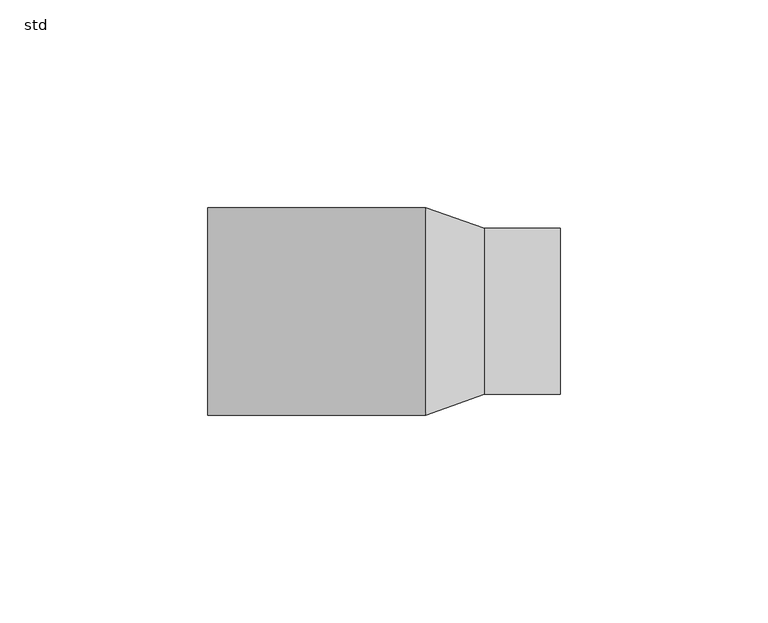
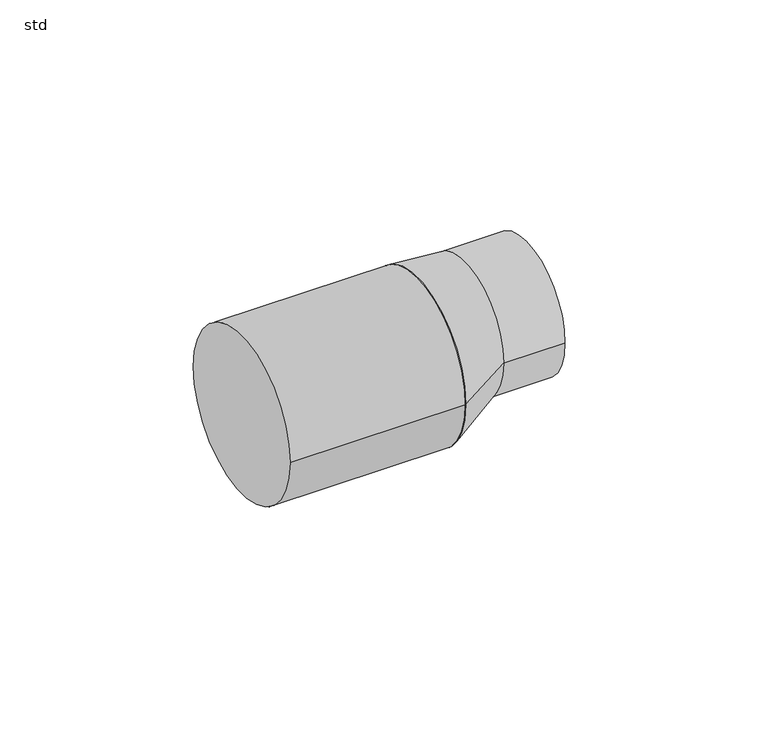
"""IFC4 building model written with IfcOpenShell, lengths in millimetres: pipe fitting geometry, ZZZ_do not use_PIF_ST_UN_ACO pipe increaser coupling_ACO : std."""

from ifc_helpers import new_model, si_unit, point, frame, frame_2d, origin, origin_2d, place, context, project, spatial, circle_curve, trimmed, segment, composite_curve, outline, extrude, source, transform, mapped, element, save
from ifc_brep_helpers import plane_surface, spline_surface, advanced_brep


def std_d175c92f(model_context):
    return source(origin(), model_context, "Body", "SolidModel", [
        advanced_brep(
        [(24.1666667, -20.0, 5.0), (24.1666667, 20.0, 5.0), (10.0, -25.0, 0.0), (10.0, 25.0, 0.0)],
        [
            (0, 1, circle_curve(frame((24.1666667, 0.0, 5.0), z_axis=(1.0, 0.0, 0.0), x_axis=(0.0, 1.0, 0.0)), 20.0)),
            (1, 0, circle_curve(frame((24.1666667, 0.0, 5.0), z_axis=(1.0, 0.0, 0.0), x_axis=(0.0, 1.0, 0.0)), 20.0)),
            (2, 3, circle_curve(frame((10.0, 0.0, 0.0), z_axis=(-1.0, 0.0, 0.0), x_axis=(0.0, 1.0, 0.0)), 25.0)),
            (3, 2, circle_curve(frame((10.0, 0.0, 0.0), z_axis=(-1.0, 0.0, 0.0), x_axis=(0.0, 1.0, 0.0)), 25.0)),
            (3, 1),
            (0, 2),
        ],
        [
            plane_surface(frame((24.1666667, 0.0, 5.0), z_axis=(1.0, 0.0, 0.0), x_axis=(0.0, 0.0, -1.0))),
            plane_surface(frame((10.0, 0.0, 0.0), z_axis=(-1.0, 0.0, 0.0), x_axis=(0.0, 0.0, -1.0))),
            spline_surface(2, 1, [[(10.0, -25.0, 0.0), (24.1666667, -20.0, 5.0)], [(10.0, -25.0, -25.0), (24.1666667, -20.0, -15.0)], [(10.0, 0.0, -25.0), (24.1666667, 0.0, -15.0)], [(10.0, 25.0, -25.0), (24.1666667, 20.0, -15.0)], [(10.0, 25.0, 0.0), (24.1666667, 20.0, 5.0)]], [3, 2, 3], [2, 2], [0.0, 1.0, 2.0], [0.0, 1.0], weights=[[1.0, 1.0], [0.7071067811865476, 0.7071067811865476], [1.0, 1.0], [0.7071067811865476, 0.7071067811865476], [1.0, 1.0]]),
            spline_surface(2, 1, [[(10.0, 25.0, 0.0), (24.1666667, 20.0, 5.0)], [(10.0, 25.0, 25.0), (24.1666667, 20.0, 25.0)], [(10.0, 0.0, 25.0), (24.1666667, 0.0, 25.0)], [(10.0, -25.0, 25.0), (24.1666667, -20.0, 25.0)], [(10.0, -25.0, 0.0), (24.1666667, -20.0, 5.0)]], [3, 2, 3], [2, 2], [0.0, 1.0, 2.0], [0.0, 1.0], weights=[[1.0, 1.0], [0.7071067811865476, 0.7071067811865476], [1.0, 1.0], [0.7071067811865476, 0.7071067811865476], [1.0, 1.0]]),
        ],
        [
            (0, [[1, 2]]),
            (1, [[3, 4]]),
            (2, [[-4, 5, -1, 6]]),
            (3, [[-3, -6, -2, -5]]),
        ],
    ),
        extrude(outline(composite_curve([segment(trimmed(circle_curve(frame_2d((0.0, 5.0)), 20.0), [point((20.0, 5.0))], [point((-20.0, 5.0))], False, "CARTESIAN"), True, "CONTINUOUS"), segment(trimmed(circle_curve(frame_2d((0.0, 5.0)), 20.0), [point((-20.0, 5.0))], [point((20.0, 5.0))], False, "CARTESIAN"), True, "CONTINUOUS")], self_intersect=False)), frame((24.1666667, 0.0, 0.0), z_axis=(1.0, 0.0, 0.0), x_axis=(0.0, 1.0, 0.0)), (0.0, 0.0, 1.0), 18.3333333),
        extrude(outline(composite_curve([segment(trimmed(circle_curve(origin_2d(), 25.0), [point((-25.0, 0.0))], [point((25.0, 0.0))], False, "CARTESIAN"), True, "CONTINUOUS"), segment(trimmed(circle_curve(origin_2d(), 25.0), [point((25.0, 0.0))], [point((-25.0, 0.0))], False, "CARTESIAN"), True, "CONTINUOUS")], self_intersect=False)), frame((-42.5, 0.0, 0.0), z_axis=(1.0, 0.0, 0.0), x_axis=(0.0, 1.0, 0.0)), (0.0, 0.0, 1.0), 52.5),
    ])


if __name__ == "__main__":
    model = new_model("IFC4")
    model_context = context("Model", 3, world=origin())
    ifc_project = project(units=[si_unit("LENGTHUNIT", "METRE", prefix="MILLI")], contexts=[model_context])
    site = spatial("IfcSite", under=ifc_project)
    building = spatial("IfcBuilding", under=site)
    placement = place(None, origin())
    std_shape = std_d175c92f(model_context)
    element("IfcPipeFitting", 1, ObjectType="ZZZ_do not use_PIF_ST_UN_ACO pipe increaser coupling_ACO : std", at=placement, inside=building, context=model_context, shape_type="MappedRepresentation", body=[
        mapped(std_shape, transform((0.0, 0.0, 0.0), x_axis=(1.0, 0.0, 0.0), y_axis=(0.0, 1.0, 0.0), z_axis=(0.0, 0.0, 1.0))),
    ])
    save(model, "model.ifc")
